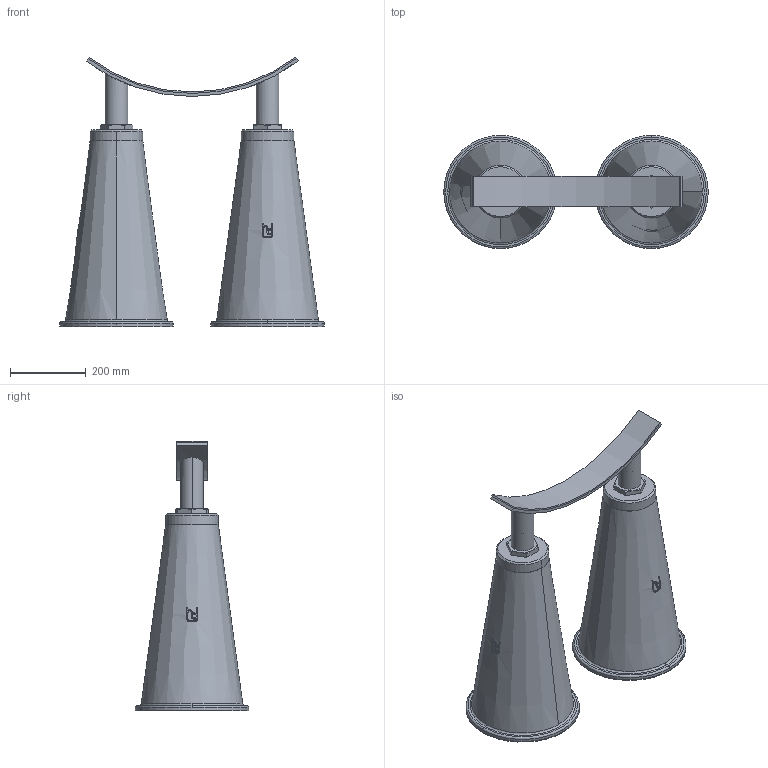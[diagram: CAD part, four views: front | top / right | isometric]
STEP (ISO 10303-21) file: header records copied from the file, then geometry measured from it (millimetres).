
FILE_DESCRIPTION(('STEP AP214'),'1');
FILE_NAME('RSRFC-DUO_DN900.stp','2018-06-27T11:45:17',(' '),(' '),'Spatial InterOp 3D',' ',' ');
FILE_SCHEMA(('automotive_design'));
Length unit declared in the file: millimetre
Products named in the file (10): 1; 2; 3; 4; 5; 6; 7; 8; 9; 10
Bounding box: 700 x 300 x 713.78 mm (x, y, z)
Volume: 37977686.2 mm3; surface area: 1603775.9 mm2
Topology: 10 solids, 12 shells, 204 faces, 504 edges, 332 vertices
Faces by surface type: plane 82, cylinder 76, cone 38, torus 8
Entity records: 9795 total; most frequent: CARTESIAN_POINT 3154, ORIENTED_EDGE 1008, DIRECTION 998, EDGE_CURVE 504, AXIS2_PLACEMENT_3D 388, VERTEX_POINT 332, LINE 222, VECTOR 222
